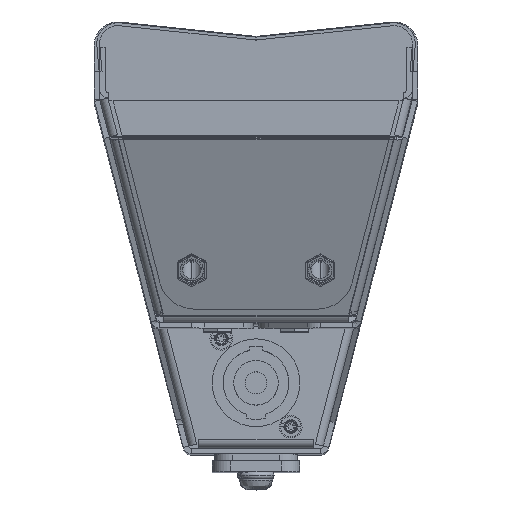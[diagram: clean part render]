
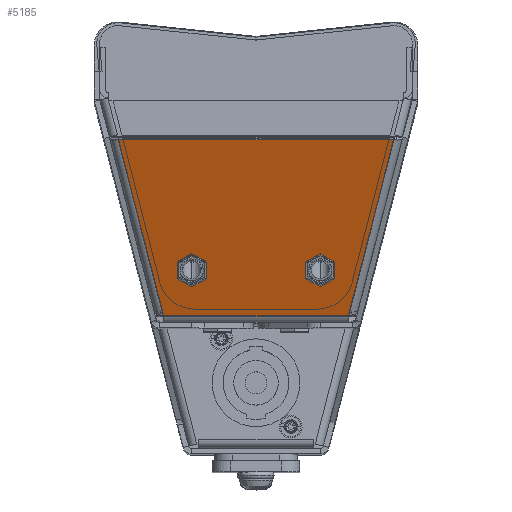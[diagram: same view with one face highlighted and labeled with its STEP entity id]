
A CAD part, top view. The second image highlights one B-rep face of the part: STEP entity #5185.
In plain terms, the highlighted planar face has unit normal (0, -0.342, 0.94) as drawn and (0.94, -0.342, 0) by its records, which use the part's own axes.
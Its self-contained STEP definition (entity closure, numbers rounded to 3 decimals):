
#315=FACE_BOUND('',#7872,.T.);
#316=FACE_BOUND('',#7873,.T.);
#1820=B_SPLINE_CURVE_WITH_KNOTS('',1,(#38234,#38235),.UNSPECIFIED.,.F.,
 .F.,(2,2),(0.,4.099),.UNSPECIFIED.);
#1821=B_SPLINE_CURVE_WITH_KNOTS('',1,(#38236,#38237),.UNSPECIFIED.,.F.,
 .F.,(2,2),(0.,4.099),.UNSPECIFIED.);
#1822=B_SPLINE_CURVE_WITH_KNOTS('',1,(#38238,#38239),.UNSPECIFIED.,.F.,
 .F.,(2,2),(0.,4.099),.UNSPECIFIED.);
#1823=B_SPLINE_CURVE_WITH_KNOTS('',1,(#38240,#38241),.UNSPECIFIED.,.F.,
 .F.,(2,2),(0.,4.099),.UNSPECIFIED.);
#1824=B_SPLINE_CURVE_WITH_KNOTS('',1,(#38242,#38243),.UNSPECIFIED.,.F.,
 .F.,(2,2),(0.,4.099),.UNSPECIFIED.);
#1825=B_SPLINE_CURVE_WITH_KNOTS('',1,(#38244,#38245),.UNSPECIFIED.,.F.,
 .F.,(2,2),(0.,4.099),.UNSPECIFIED.);
#1826=B_SPLINE_CURVE_WITH_KNOTS('',1,(#38246,#38247),.UNSPECIFIED.,.F.,
 .F.,(2,2),(0.,4.099),.UNSPECIFIED.);
#1827=B_SPLINE_CURVE_WITH_KNOTS('',1,(#38248,#38249),.UNSPECIFIED.,.F.,
 .F.,(2,2),(0.,4.099),.UNSPECIFIED.);
#1828=B_SPLINE_CURVE_WITH_KNOTS('',1,(#38250,#38251),.UNSPECIFIED.,.F.,
 .F.,(2,2),(0.,4.099),.UNSPECIFIED.);
#1829=B_SPLINE_CURVE_WITH_KNOTS('',1,(#38252,#38253),.UNSPECIFIED.,.F.,
 .F.,(2,2),(0.,4.099),.UNSPECIFIED.);
#1830=B_SPLINE_CURVE_WITH_KNOTS('',1,(#38254,#38255),.UNSPECIFIED.,.F.,
 .F.,(2,2),(0.,4.099),.UNSPECIFIED.);
#1831=B_SPLINE_CURVE_WITH_KNOTS('',1,(#38256,#38257),.UNSPECIFIED.,.F.,
 .F.,(2,2),(0.,4.099),.UNSPECIFIED.);
#1832=B_SPLINE_CURVE_WITH_KNOTS('',1,(#38258,#38259),.UNSPECIFIED.,.F.,
 .F.,(2,2),(0.,75.485),.UNSPECIFIED.);
#1833=B_SPLINE_CURVE_WITH_KNOTS('',1,(#38260,#38261),.UNSPECIFIED.,.F.,
 .F.,(2,2),(0.,2.17),.UNSPECIFIED.);
#1834=B_SPLINE_CURVE_WITH_KNOTS('',1,(#38262,#38263),.UNSPECIFIED.,.F.,
 .F.,(2,2),(0.,50.585),.UNSPECIFIED.);
#1835=B_SPLINE_CURVE_WITH_KNOTS('',1,(#38264,#38265),.UNSPECIFIED.,.F.,
 .F.,(2,2),(0.,2.17),.UNSPECIFIED.);
#1934=B_SPLINE_CURVE_WITH_KNOTS('',1,(#38544,#38545),.UNSPECIFIED.,.F.,
 .F.,(2,2),(-2.126,0.),.UNSPECIFIED.);
#1943=B_SPLINE_CURVE_WITH_KNOTS('',1,(#38578,#38579),.UNSPECIFIED.,.F.,
 .F.,(2,2),(-52.51,0.),.UNSPECIFIED.);
#2017=B_SPLINE_CURVE_WITH_KNOTS('',1,(#38850,#38851),.UNSPECIFIED.,.F.,
 .F.,(2,2),(-2.126,0.),.UNSPECIFIED.);
#2025=B_SPLINE_CURVE_WITH_KNOTS('',1,(#38882,#38883),.UNSPECIFIED.,.F.,
 .F.,(2,2),(-52.51,0.),.UNSPECIFIED.);
#3411=PLANE('',#25307);
#5185=ADVANCED_FACE('',(#6458,#315,#316),#3411,.T.);
#6458=FACE_OUTER_BOUND('',#7871,.T.);
#7871=EDGE_LOOP('',(#12340,#12341,#12342,#12343,#12344,#12345,#12346,#12347));
#7872=EDGE_LOOP('',(#12348,#12349,#12350,#12351,#12352,#12353));
#7873=EDGE_LOOP('',(#12354,#12355,#12356,#12357,#12358,#12359));
#12340=ORIENTED_EDGE('',*,*,#17428,.T.);
#12341=ORIENTED_EDGE('',*,*,#17295,.T.);
#12342=ORIENTED_EDGE('',*,*,#17526,.T.);
#12343=ORIENTED_EDGE('',*,*,#17518,.T.);
#12344=ORIENTED_EDGE('',*,*,#17296,.T.);
#12345=ORIENTED_EDGE('',*,*,#17297,.T.);
#12346=ORIENTED_EDGE('',*,*,#17298,.T.);
#12347=ORIENTED_EDGE('',*,*,#17419,.T.);
#12348=ORIENTED_EDGE('',*,*,#17283,.T.);
#12349=ORIENTED_EDGE('',*,*,#17284,.T.);
#12350=ORIENTED_EDGE('',*,*,#17285,.T.);
#12351=ORIENTED_EDGE('',*,*,#17286,.T.);
#12352=ORIENTED_EDGE('',*,*,#17287,.T.);
#12353=ORIENTED_EDGE('',*,*,#17288,.T.);
#12354=ORIENTED_EDGE('',*,*,#17294,.T.);
#12355=ORIENTED_EDGE('',*,*,#17289,.T.);
#12356=ORIENTED_EDGE('',*,*,#17290,.T.);
#12357=ORIENTED_EDGE('',*,*,#17291,.T.);
#12358=ORIENTED_EDGE('',*,*,#17292,.T.);
#12359=ORIENTED_EDGE('',*,*,#17293,.T.);
#17283=EDGE_CURVE('',#21519,#21520,#1820,.T.);
#17284=EDGE_CURVE('',#21520,#21521,#1821,.T.);
#17285=EDGE_CURVE('',#21521,#21522,#1822,.T.);
#17286=EDGE_CURVE('',#21522,#21523,#1823,.T.);
#17287=EDGE_CURVE('',#21523,#21524,#1824,.T.);
#17288=EDGE_CURVE('',#21524,#21519,#1825,.T.);
#17289=EDGE_CURVE('',#21525,#21526,#1826,.T.);
#17290=EDGE_CURVE('',#21526,#21527,#1827,.T.);
#17291=EDGE_CURVE('',#21527,#21528,#1828,.T.);
#17292=EDGE_CURVE('',#21528,#21529,#1829,.T.);
#17293=EDGE_CURVE('',#21529,#21530,#1830,.T.);
#17294=EDGE_CURVE('',#21530,#21525,#1831,.T.);
#17295=EDGE_CURVE('',#21531,#21532,#1832,.T.);
#17296=EDGE_CURVE('',#21534,#21535,#1833,.T.);
#17297=EDGE_CURVE('',#21535,#21536,#1834,.T.);
#17298=EDGE_CURVE('',#21536,#21537,#1835,.T.);
#17419=EDGE_CURVE('',#21537,#21538,#1934,.T.);
#17428=EDGE_CURVE('',#21538,#21531,#1943,.T.);
#17518=EDGE_CURVE('',#21533,#21534,#2017,.T.);
#17526=EDGE_CURVE('',#21532,#21533,#2025,.T.);
#21519=VERTEX_POINT('',#37864);
#21520=VERTEX_POINT('',#37865);
#21521=VERTEX_POINT('',#37866);
#21522=VERTEX_POINT('',#37867);
#21523=VERTEX_POINT('',#37868);
#21524=VERTEX_POINT('',#37869);
#21525=VERTEX_POINT('',#37870);
#21526=VERTEX_POINT('',#37871);
#21527=VERTEX_POINT('',#37872);
#21528=VERTEX_POINT('',#37873);
#21529=VERTEX_POINT('',#37874);
#21530=VERTEX_POINT('',#37875);
#21531=VERTEX_POINT('',#37876);
#21532=VERTEX_POINT('',#37877);
#21533=VERTEX_POINT('',#37878);
#21534=VERTEX_POINT('',#37879);
#21535=VERTEX_POINT('',#37880);
#21536=VERTEX_POINT('',#37881);
#21537=VERTEX_POINT('',#37882);
#21538=VERTEX_POINT('',#37883);
#25307=AXIS2_PLACEMENT_3D('',#37125,#27677,$);
#27677=DIRECTION('',(0.94,-0.342,0.));
#37125=CARTESIAN_POINT('',(475.157,51.342,5.783));
#37864=CARTESIAN_POINT('',(480.204,65.208,33.547));
#37865=CARTESIAN_POINT('',(480.905,67.134,37.097));
#37866=CARTESIAN_POINT('',(482.307,70.986,37.097));
#37867=CARTESIAN_POINT('',(483.008,72.912,33.547));
#37868=CARTESIAN_POINT('',(482.307,70.986,29.997));
#37869=CARTESIAN_POINT('',(480.905,67.134,29.997));
#37870=CARTESIAN_POINT('',(480.193,65.18,68.604));
#37871=CARTESIAN_POINT('',(480.894,67.106,72.154));
#37872=CARTESIAN_POINT('',(482.296,70.958,72.154));
#37873=CARTESIAN_POINT('',(482.997,72.884,68.604));
#37874=CARTESIAN_POINT('',(482.296,70.958,65.054));
#37875=CARTESIAN_POINT('',(480.894,67.106,65.054));
#37876=CARTESIAN_POINT('',(494.547,104.615,13.332));
#37877=CARTESIAN_POINT('',(494.547,104.615,88.817));
#37878=CARTESIAN_POINT('',(477.09,56.655,76.471));
#37879=CARTESIAN_POINT('',(476.919,56.185,78.538));
#37880=CARTESIAN_POINT('',(476.919,56.185,76.367));
#37881=CARTESIAN_POINT('',(476.919,56.185,25.782));
#37882=CARTESIAN_POINT('',(476.919,56.185,23.611));
#37883=CARTESIAN_POINT('',(477.09,56.655,25.678));
#38234=CARTESIAN_POINT('',(480.204,65.208,33.547));
#38235=CARTESIAN_POINT('',(480.905,67.134,37.097));
#38236=CARTESIAN_POINT('',(480.905,67.134,37.097));
#38237=CARTESIAN_POINT('',(482.307,70.986,37.097));
#38238=CARTESIAN_POINT('',(482.307,70.986,37.097));
#38239=CARTESIAN_POINT('',(483.008,72.912,33.547));
#38240=CARTESIAN_POINT('',(483.008,72.912,33.547));
#38241=CARTESIAN_POINT('',(482.307,70.986,29.997));
#38242=CARTESIAN_POINT('',(482.307,70.986,29.997));
#38243=CARTESIAN_POINT('',(480.905,67.134,29.997));
#38244=CARTESIAN_POINT('',(480.905,67.134,29.997));
#38245=CARTESIAN_POINT('',(480.204,65.208,33.547));
#38246=CARTESIAN_POINT('',(480.193,65.18,68.604));
#38247=CARTESIAN_POINT('',(480.894,67.106,72.154));
#38248=CARTESIAN_POINT('',(480.894,67.106,72.154));
#38249=CARTESIAN_POINT('',(482.296,70.958,72.154));
#38250=CARTESIAN_POINT('',(482.296,70.958,72.154));
#38251=CARTESIAN_POINT('',(482.997,72.884,68.604));
#38252=CARTESIAN_POINT('',(482.997,72.884,68.604));
#38253=CARTESIAN_POINT('',(482.296,70.958,65.054));
#38254=CARTESIAN_POINT('',(482.296,70.958,65.054));
#38255=CARTESIAN_POINT('',(480.894,67.106,65.054));
#38256=CARTESIAN_POINT('',(480.894,67.106,65.054));
#38257=CARTESIAN_POINT('',(480.193,65.18,68.604));
#38258=CARTESIAN_POINT('',(494.547,104.615,13.332));
#38259=CARTESIAN_POINT('',(494.547,104.615,88.817));
#38260=CARTESIAN_POINT('',(476.919,56.185,78.538));
#38261=CARTESIAN_POINT('',(476.919,56.185,76.367));
#38262=CARTESIAN_POINT('',(476.919,56.185,76.367));
#38263=CARTESIAN_POINT('',(476.919,56.185,25.782));
#38264=CARTESIAN_POINT('',(476.919,56.185,25.782));
#38265=CARTESIAN_POINT('',(476.919,56.185,23.611));
#38544=CARTESIAN_POINT('',(476.919,56.185,23.611));
#38545=CARTESIAN_POINT('',(477.09,56.655,25.678));
#38578=CARTESIAN_POINT('',(477.09,56.655,25.678));
#38579=CARTESIAN_POINT('',(494.547,104.615,13.332));
#38850=CARTESIAN_POINT('',(477.09,56.655,76.471));
#38851=CARTESIAN_POINT('',(476.919,56.185,78.538));
#38882=CARTESIAN_POINT('',(494.547,104.615,88.817));
#38883=CARTESIAN_POINT('',(477.09,56.655,76.471));
